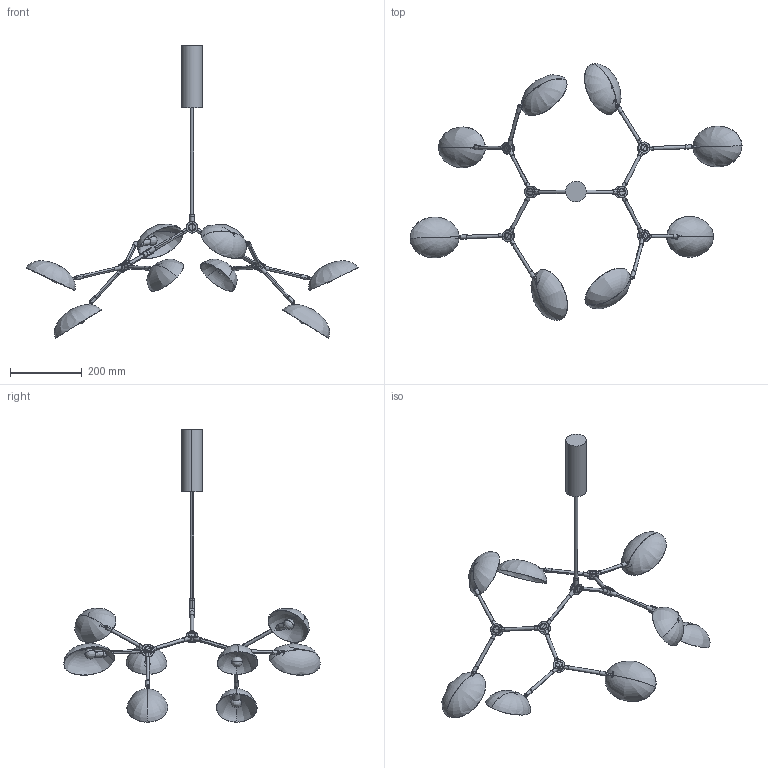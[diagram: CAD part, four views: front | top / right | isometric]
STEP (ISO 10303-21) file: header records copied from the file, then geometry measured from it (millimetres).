
FILE_DESCRIPTION(/* description */ (''),/* implementation_level */ '2;1');
FILE_NAME(/* name */ 'Drop Chandelier Mini Original',/* time_stamp */ '2020-07-07T10:46:16+02:00',/* author */ (''),/* organization */ (''),/* preprocessor_version */ 'ST-DEVELOPER v15',/* originating_system */ '',/* authorisation */ '');
FILE_SCHEMA (('AUTOMOTIVE_DESIGN'));
Length unit declared in the file: millimetre
Products named in the file (1): Document
Bounding box: 924.51 x 714.23 x 814.04 mm (x, y, z)
Volume: 1042322 mm3; surface area: 541696 mm2
Topology: 114 solids, 114 shells, 636 faces, 1188 edges, 652 vertices
Faces by surface type: bspline 444, plane 192
Entity records: 26694 total; most frequent: CARTESIAN_POINT 19658, ORIENTED_EDGE 2136, EDGE_CURVE 1068, VERTEX_POINT 652, ADVANCED_FACE 636, FACE_OUTER_BOUND 636, EDGE_LOOP 636, B_SPLINE_CURVE_WITH_KNOTS 332
